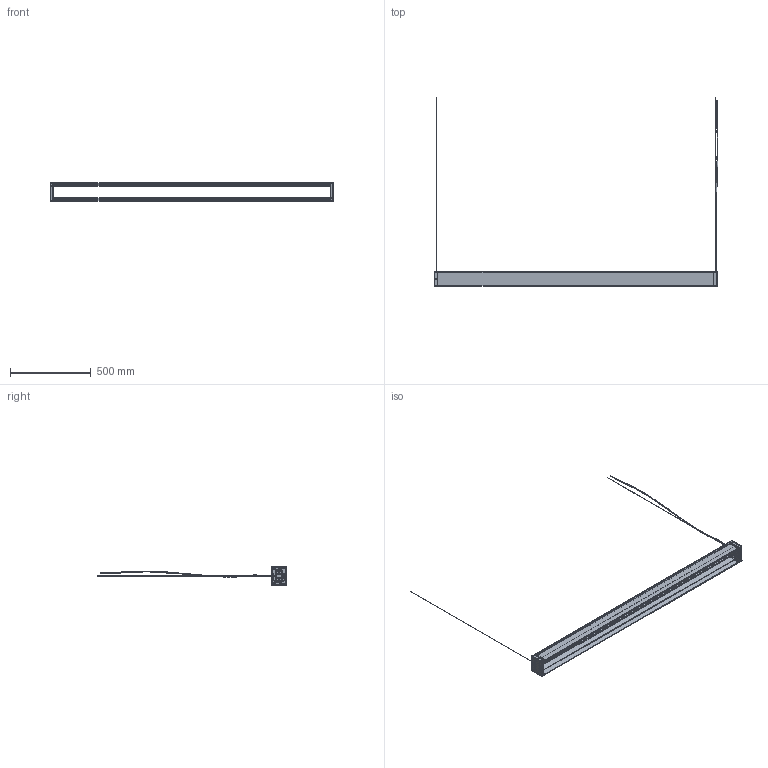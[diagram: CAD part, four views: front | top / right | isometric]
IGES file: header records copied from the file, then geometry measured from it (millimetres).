
Start section: SolidWorks IGES file using analytic representation for surfaces
Global section: file name: N:\- Ingeneria\DISEGNI\PRODOTTI\TRU\SOSPENSIONE\800TRULWW521_TRU SOSPESA UP-UP.IGS; native system: SolidWorks 2016; preprocessor: SolidWorks 2016; author: gpinheiro; date: 160915.175313; units: millimetre
Bounding box: 1758.99 x 1169.21 x 112 mm (x, y, z)
Volume: 1521137.2 mm3; surface area: 1925830.3 mm2
Topology: 23 solids, 23 shells, 9340 faces, 24746 edges, 16288 vertices
Faces by surface type: plane 7322, revolution 1322, bspline 696
